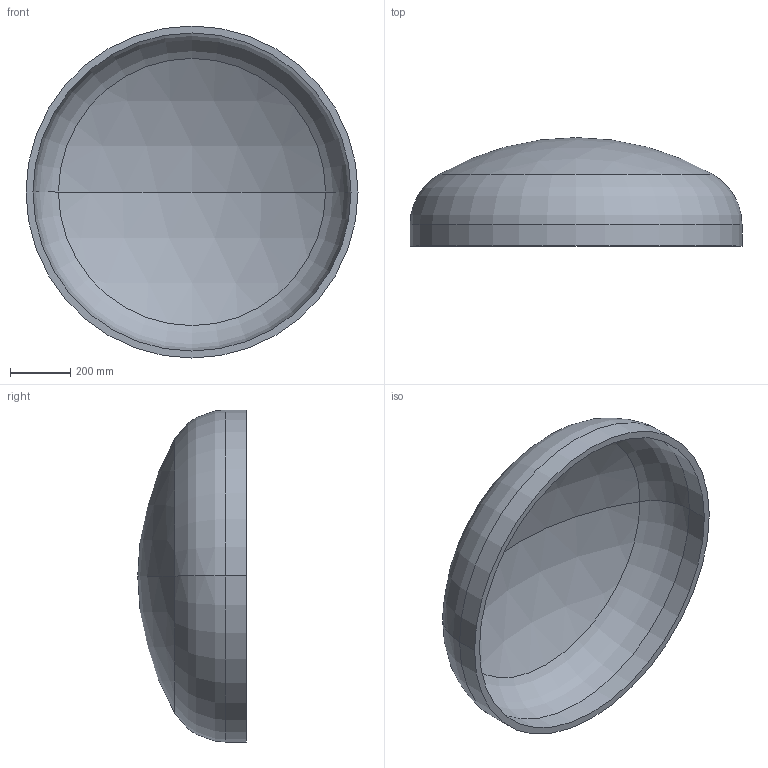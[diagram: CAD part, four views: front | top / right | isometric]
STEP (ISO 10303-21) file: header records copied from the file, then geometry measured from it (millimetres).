
FILE_DESCRIPTION (( 'STEP AP203' ), '1' );
FILE_NAME ('DIN 28013 Korbbogenform_-_Boden DIN 28013 - 1100 x 70 - I - s=23.step', '2016-07-01T09:03:43', ( '' ), ( '' ), 'SwSTEP 2.0', 'SolidWorks 2013', '' );
FILE_SCHEMA (( 'CONFIG_CONTROL_DESIGN' ));
Length unit declared in the file: millimetre
Products named in the file (1): DIN 28013 Korbbogenform_-_Boden DIN 28013 - 1100 x 70 - I - s=23
Bounding box: 1100 x 359.28 x 1100 mm (x, y, z)
Volume: 34919243.7 mm3; surface area: 3115383.3 mm2
Topology: 1 solids, 1 shells, 13 faces, 24 edges, 14 vertices
Faces by surface type: torus 4, cylinder 4, sphere 4, plane 1
Entity records: 407 total; most frequent: DIRECTION 72, CARTESIAN_POINT 52, ORIENTED_EDGE 48, AXIS2_PLACEMENT_3D 34, EDGE_CURVE 24, CIRCLE 20, EDGE_LOOP 14, VERTEX_POINT 14
